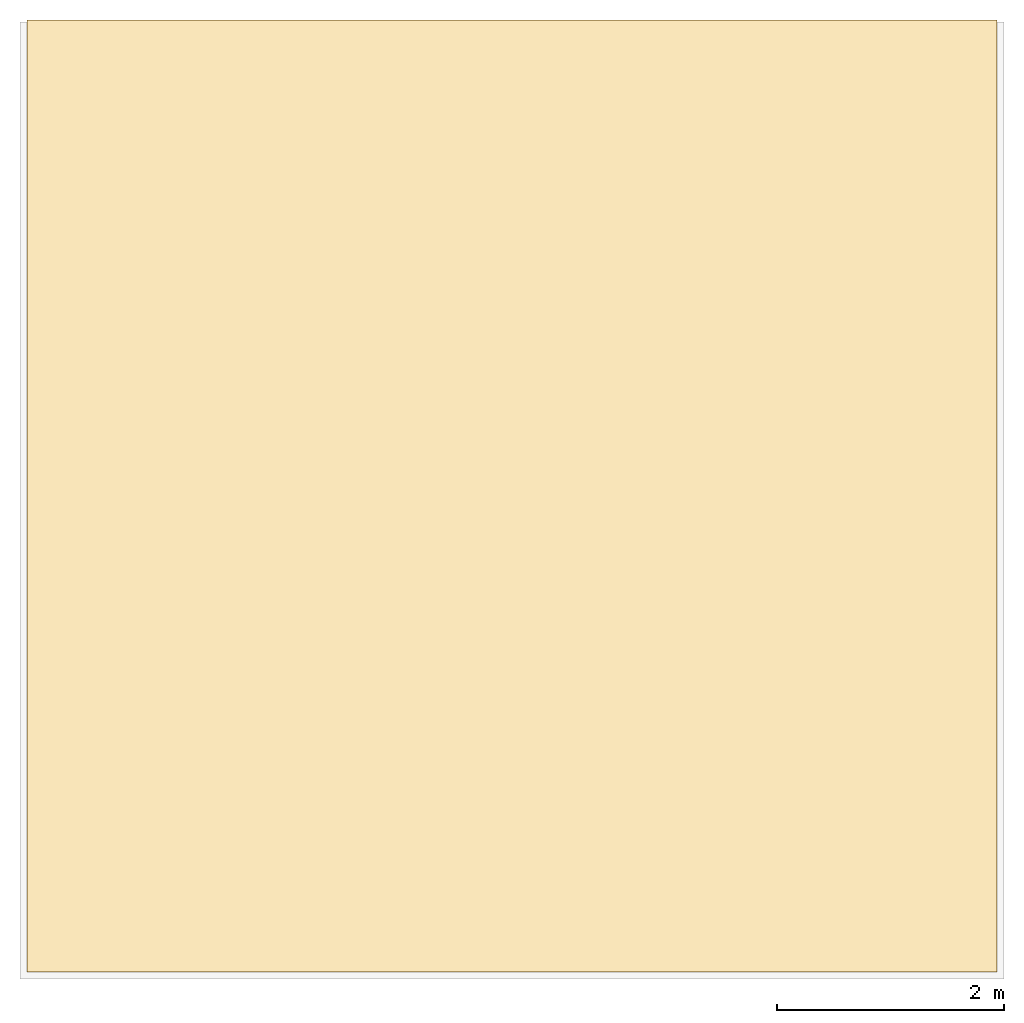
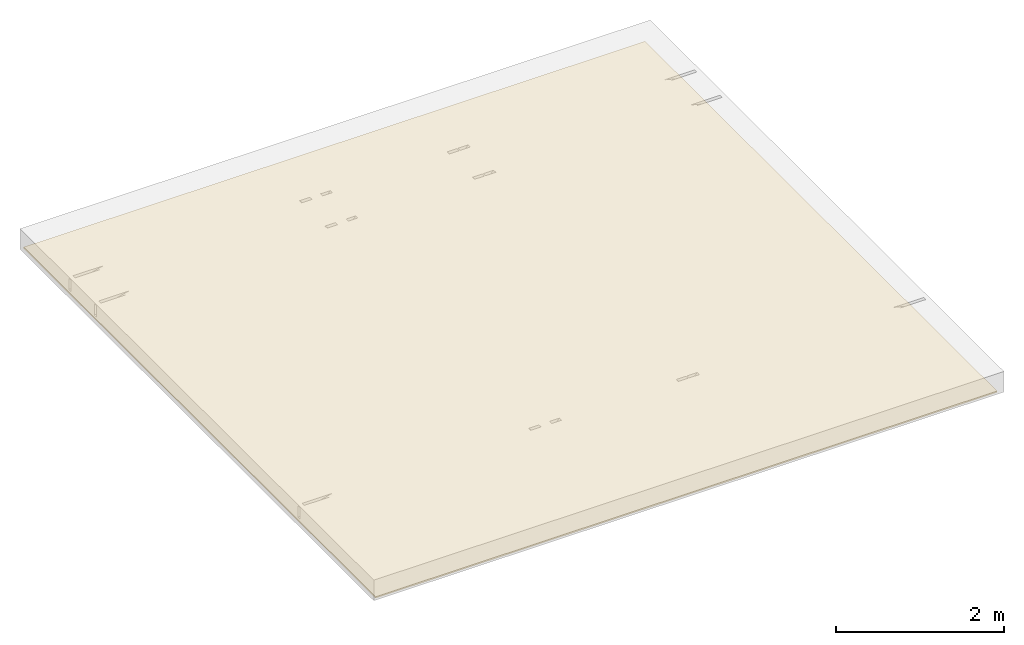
# One storey, part 1 of 2: 1 covering.
"""IFC2X3 building model written with IfcOpenShell, lengths in metres."""

from ifc_helpers import new_model, entity, si_unit, converted_unit, derived_unit, direction, frame, origin, origin_2d_with_axis, place, context, subcontext, project, spatial, rectangle, extrude, material, layer, layer_set, layer_usage, type_object, element, save


model = new_model("IFC2X3")

# Units and contexts
model_context = context("Model", 3, precision=1e-05, world=origin(), true_north=direction((6.123031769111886e-17, 1.0)))
body_context = subcontext(model_context, "Body", "Model", "MODEL_VIEW")
ifc_project = project(units=[si_unit("LENGTHUNIT", "METRE"), si_unit("AREAUNIT", "SQUARE_METRE"), si_unit("VOLUMEUNIT", "CUBIC_METRE"), converted_unit("PLANEANGLEUNIT", "DEGREE", entity("IfcRatioMeasure", 0.017453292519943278), si_unit("PLANEANGLEUNIT", "RADIAN"), dimensions=[0, 0, 0, 0, 0, 0, 0]), si_unit("MASSUNIT", "GRAM", prefix="KILO"), derived_unit("MASSDENSITYUNIT", [(si_unit("MASSUNIT", "GRAM", prefix="KILO"), 1), (si_unit("LENGTHUNIT", "METRE"), -3)]), derived_unit("IONCONCENTRATIONUNIT", [(si_unit("MASSUNIT", "GRAM", prefix="KILO"), 1), (si_unit("LENGTHUNIT", "METRE"), -3)]), derived_unit("MOMENTOFINERTIAUNIT", [(si_unit("LENGTHUNIT", "METRE"), 4)]), si_unit("TIMEUNIT", "SECOND"), si_unit("FREQUENCYUNIT", "HERTZ"), si_unit("THERMODYNAMICTEMPERATUREUNIT", "DEGREE_CELSIUS"), derived_unit("THERMALTRANSMITTANCEUNIT", [(si_unit("MASSUNIT", "GRAM", prefix="KILO"), 1), (si_unit("THERMODYNAMICTEMPERATUREUNIT", "KELVIN"), -1), (si_unit("TIMEUNIT", "SECOND"), -3)]), derived_unit("THERMALCONDUCTANCEUNIT", [(si_unit("MASSUNIT", "GRAM", prefix="KILO"), 1), (si_unit("THERMODYNAMICTEMPERATUREUNIT", "KELVIN"), -1), (si_unit("TIMEUNIT", "SECOND"), -3), (si_unit("LENGTHUNIT", "METRE"), 1)]), derived_unit("VOLUMETRICFLOWRATEUNIT", [(si_unit("LENGTHUNIT", "METRE"), 3), (si_unit("TIMEUNIT", "SECOND"), -1)]), derived_unit("MASSFLOWRATEUNIT", [(si_unit("MASSUNIT", "GRAM", prefix="KILO"), 1), (si_unit("TIMEUNIT", "SECOND"), -1)]), derived_unit("ROTATIONALFREQUENCYUNIT", [(si_unit("TIMEUNIT", "SECOND"), -1)]), si_unit("ELECTRICCURRENTUNIT", "AMPERE"), si_unit("ELECTRICVOLTAGEUNIT", "VOLT"), si_unit("POWERUNIT", "WATT"), si_unit("FORCEUNIT", "NEWTON", prefix="KILO"), si_unit("ILLUMINANCEUNIT", "LUX"), si_unit("LUMINOUSFLUXUNIT", "LUMEN"), si_unit("LUMINOUSINTENSITYUNIT", "CANDELA"), derived_unit("USERDEFINED", [(si_unit("MASSUNIT", "GRAM", prefix="KILO"), -1), (si_unit("LENGTHUNIT", "METRE"), -2), (si_unit("TIMEUNIT", "SECOND"), 3), (si_unit("LUMINOUSFLUXUNIT", "LUMEN"), 1)]), derived_unit("USERDEFINED", [(si_unit("MASSUNIT", "GRAM", prefix="KILO"), 1), (si_unit("TIMEUNIT", "SECOND"), -3), (si_unit("LENGTHUNIT", "METRE"), 3), (si_unit("ELECTRICCURRENTUNIT", "AMPERE"), -2)]), derived_unit("SOUNDPOWERUNIT", [(si_unit("MASSUNIT", "GRAM", prefix="KILO"), 1), (si_unit("TIMEUNIT", "SECOND"), -3), (si_unit("LENGTHUNIT", "METRE"), 2)]), derived_unit("SOUNDPRESSUREUNIT", [(si_unit("MASSUNIT", "GRAM", prefix="KILO"), 1), (si_unit("LENGTHUNIT", "METRE"), -1), (si_unit("TIMEUNIT", "SECOND"), -2)]), derived_unit("LINEARVELOCITYUNIT", [(si_unit("LENGTHUNIT", "METRE"), 1), (si_unit("TIMEUNIT", "SECOND"), -1)]), si_unit("PRESSUREUNIT", "PASCAL"), derived_unit("USERDEFINED", [(si_unit("MASSUNIT", "GRAM", prefix="KILO"), 1), (si_unit("LENGTHUNIT", "METRE"), -2), (si_unit("TIMEUNIT", "SECOND"), -2)]), derived_unit("LINEARFORCEUNIT", [(si_unit("MASSUNIT", "GRAM", prefix="KILO"), 1), (si_unit("TIMEUNIT", "SECOND"), -2)]), derived_unit("PLANARFORCEUNIT", [(si_unit("MASSUNIT", "GRAM", prefix="KILO"), 1), (si_unit("LENGTHUNIT", "METRE"), -1), (si_unit("TIMEUNIT", "SECOND"), -2)]), derived_unit("SPECIFICHEATCAPACITYUNIT", [(si_unit("THERMODYNAMICTEMPERATUREUNIT", "KELVIN"), -1), (si_unit("LENGTHUNIT", "METRE"), 2), (si_unit("TIMEUNIT", "SECOND"), -2)]), derived_unit("HEATINGVALUEUNIT", [(si_unit("LENGTHUNIT", "METRE"), 2), (si_unit("TIMEUNIT", "SECOND"), -2)]), derived_unit("VAPORPERMEABILITYUNIT", [(si_unit("LENGTHUNIT", "METRE"), -1), (si_unit("TIMEUNIT", "SECOND"), 1)]), derived_unit("DYNAMICVISCOSITYUNIT", [(si_unit("MASSUNIT", "GRAM", prefix="KILO"), 1), (si_unit("TIMEUNIT", "SECOND"), -1), (si_unit("LENGTHUNIT", "METRE"), -1)]), derived_unit("THERMALEXPANSIONCOEFFICIENTUNIT", [(si_unit("THERMODYNAMICTEMPERATUREUNIT", "KELVIN"), -1)]), derived_unit("MODULUSOFELASTICITYUNIT", [(si_unit("MASSUNIT", "GRAM", prefix="KILO"), 1), (si_unit("LENGTHUNIT", "METRE"), -1), (si_unit("TIMEUNIT", "SECOND"), -2)]), derived_unit("ISOTHERMALMOISTURECAPACITYUNIT", [(si_unit("LENGTHUNIT", "METRE"), 3), (si_unit("MASSUNIT", "GRAM", prefix="KILO"), -1)]), derived_unit("MOISTUREDIFFUSIVITYUNIT", [(si_unit("TIMEUNIT", "SECOND"), -1), (si_unit("LENGTHUNIT", "METRE"), 2)])], contexts=[model_context])

# Site, building, storey
site_placement = place(None, frame((1.2553507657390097, -0.6266432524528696, -1.0397761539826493), z_axis=(0.0, 0.0, 1.0), x_axis=(-1.0, 0.0, 0.0)))
site = spatial("IfcSite", under=ifc_project, at=site_placement, Name="Default", CompositionType="ELEMENT")
building_placement = place(site_placement, origin())
building = spatial("IfcBuilding", under=site, at=building_placement, Name="MAISON D'HABITATION", CompositionType="ELEMENT")
storey_placement = place(building_placement, frame((0.0, 0.0, 3.5397761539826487)))
storey = spatial("IfcBuildingStorey", under=building, at=storey_placement, Name="Niveau plafond ↓", CompositionType="ELEMENT", Elevation=3.5397761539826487)

# Covering
ifc_material_1 = material(Name="Plaque de mur de gypse")
ifc_layer_1 = layer(ifc_material_1, 0.013)
ifc_material_2 = material(Name="Peinture")
ifc_layer_2 = layer(ifc_material_2, 0.007)
ifc_layer_set = layer_set([ifc_layer_1, ifc_layer_2], Name="Plafond composé:Plafond placo + peinture")
ifc_layer_usage = layer_usage(ifc_layer_set, "AXIS3", "POSITIVE", 0.0)
covering_type = type_object("IfcCoveringType", Name="Plafond composé:Plafond placo + peinture", PredefinedType="CEILING")
covering_placement = place(storey_placement, origin())
element("IfcCovering", 1, at=covering_placement, inside=storey, type_object=covering_type, material=ifc_layer_usage, Name="Plafond composé:Plafond placo + peinture", ObjectType="Plafond composé:Plafond placo + peinture", PredefinedType="CEILING", context=body_context, shape_type="SweptSolid", body=[
    extrude(rectangle(XDim=8.397999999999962, YDim=8.559999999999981, at=origin_2d_with_axis()), frame((-0.2798669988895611, -1.182816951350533, 0.0), z_axis=(0.0, 0.0, 1.0), x_axis=(0.0, -1.0, 0.0)), (0.0, 0.0, 1.0), 0.019999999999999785),
])

save(model, "model.ifc")
